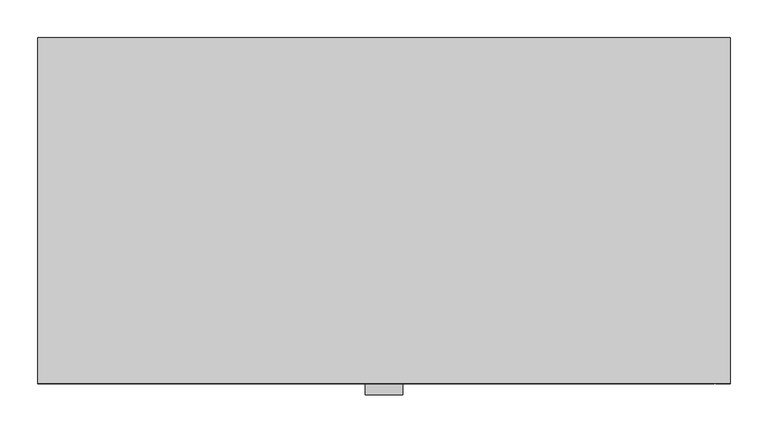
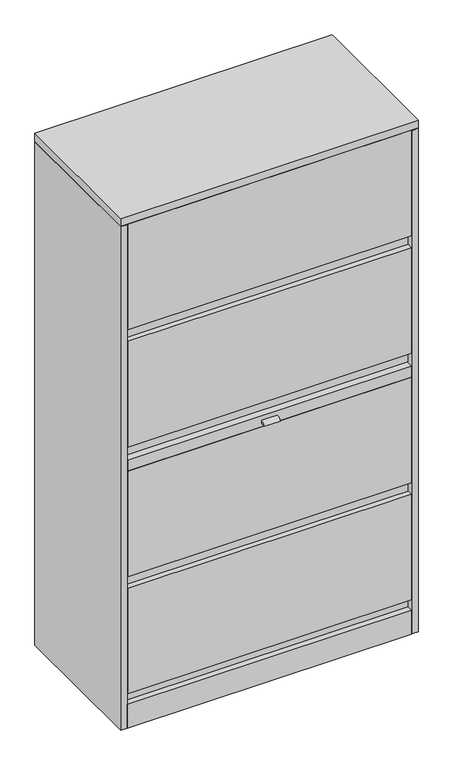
"""IFC4 building model written with IfcOpenShell, lengths in millimetres: furniture geometry, Steelcase - 900 Series - Storage - Lateral File With Posting Shelf - Flush Steel : Four 15H Lift Up Door - 36W."""

from ifc_helpers import new_model, si_unit, point, frame, frame_2d, origin, origin_with_axes, place, context, project, spatial, polyline, circle_curve, trimmed, segment, composite_curve, outline, extrude, faceted_brep, source, transform, mapped, element, save


def furniture_df55bf1d(model_context):
    return source(origin(), model_context, "Body", "SolidModel", [
        extrude(outline(composite_curve([segment(polyline([(-457.2, 845.7259941), (-459.1278436, 845.7259941)]), True, "CONTINUOUS"), segment(trimmed(circle_curve(frame_2d((-465.1546853, 839.5924947)), 8.5989904), [point((-459.1278436, 845.7259941))], [point((-471.181527, 845.7259941))], True, "CARTESIAN"), True, "CONTINUOUS"), segment(polyline([(-471.181527, 845.7259941), (-472.2456768, 845.7259941)]), True, "CONTINUOUS"), segment(trimmed(circle_curve(frame_2d((-456.0306814, 838.2093196)), 17.872506), [point((-472.2456768, 845.7259941))], [point((-457.2, 856.0435329))], False, "CARTESIAN"), True, "CONTINUOUS"), segment(polyline([(-457.2, 856.0435329), (-457.2, 845.7259941)]), True, "CONTINUOUS")], self_intersect=False)), frame((432.562, 0.0, 0.0), z_axis=(1.0, 0.0, 0.0), x_axis=(0.0, 1.0, 0.0)), (0.0, 0.0, 1.0), 49.276),
        extrude(outline(polyline([(-439.6742224, 1290.3962373), (-457.2, 1294.7658834), (-457.2, 1637.8935942), (-431.800255, 1637.8935942), (-431.800255, 1255.8522686), (-439.6742224, 1255.8522686), (-439.6742224, 1290.3962373)])), frame((20.8289612, 0.0, 0.0), z_axis=(1.0, 0.0, 0.0), x_axis=(0.0, 1.0, 0.0)), (0.0, 0.0, 1.0), 872.7432404),
        extrude(outline(polyline([(-439.6742224, 487.7562373), (-457.2, 492.1258834), (-457.2, 835.2535983), (-431.800255, 835.2535983), (-431.800255, 453.2121984), (-439.6742224, 453.2121984), (-439.6742224, 487.7562373)])), frame((20.8289612, 0.0, 0.0), z_axis=(1.0, 0.0, 0.0), x_axis=(0.0, 1.0, 0.0)), (0.0, 0.0, 1.0), 872.7432404),
        extrude(outline(polyline([(-439.6742224, 106.7562373), (-457.2, 111.1258834), (-457.2, 454.2536007), (-431.800255, 454.2536007), (-431.800255, 77.9779983), (-439.6742224, 77.9779983), (-439.6742224, 106.7562373)])), frame((20.8289612, 0.0, 0.0), z_axis=(1.0, 0.0, 0.0), x_axis=(0.0, 1.0, 0.0)), (0.0, 0.0, 1.0), 872.7432404),
        extrude(outline(polyline([(-439.6742224, 909.3962373), (-457.2, 913.7658834), (-457.2, 1256.8935983), (-431.800255, 1256.8935983), (-431.800255, 874.8521959), (-439.6742224, 874.8521959), (-439.6742224, 909.3962373)])), frame((20.8289612, 0.0, 0.0), z_axis=(1.0, 0.0, 0.0), x_axis=(0.0, 1.0, 0.0)), (0.0, 0.0, 1.0), 872.7432404),
        extrude(outline(polyline([(893.5722015, -457.2), (20.8289612, -457.2), (20.8289612, -431.800255), (893.5722015, -431.800255), (893.5722015, -457.2)])), frame((0.0, 0.0, 834.2122), z_axis=(0.0, 0.0, 1.0), x_axis=(1.0, 0.0, 0.0)), (0.0, 0.0, 1.0), 35.9156),
        extrude(outline(polyline([(-430.275847, 77.9779983), (-430.275847, 103.3780013), (-25.2721219, 103.3780013), (-25.2721219, 0.0), (-457.2, 0.0), (-457.2, 77.9779983), (-430.275847, 77.9779983)])), frame((19.3039998, 0.0, 0.0), z_axis=(1.0, 0.0, 0.0), x_axis=(0.0, 1.0, 0.0)), (0.0, 0.0, 1.0), 874.2682018),
        faceted_brep([(914.4, 0.0, 1663.7), (0.0, 0.0, 1663.7), (0.0, -457.2, 1663.7), (914.4, -457.2, 1663.7), (914.4, 0.0, 1638.2999516), (914.4, -457.2, 1638.2999516), (0.0, -457.2, 1638.2999516), (0.0, 0.0, 1638.2999516), (895.0960184, -25.2721219, 1638.2999516), (20.8289612, -25.2721219, 1638.2999516), (20.8289612, -415.9241219, 1638.2999516), (895.0960184, -415.9241219, 1638.2999516), (895.0960184, -25.2721219, 1636.776), (895.0960184, -415.9241219, 1636.776), (20.8289612, -415.9241219, 1636.776), (20.8289612, -25.2721219, 1636.776)], [[[0, 1, 2, 3]], [[4, 5, 6, 7], [8, 9, 10, 11]], [[1, 0, 4, 7]], [[2, 1, 7, 6]], [[3, 2, 6, 5]], [[0, 3, 5, 4]], [[12, 13, 14, 15]], [[12, 15, 9, 8]], [[15, 14, 10, 9]], [[14, 13, 11, 10]], [[13, 12, 8, 11]]]),
        extrude(outline(polyline([(895.0960184, -25.2721219), (19.3039998, -25.2721219), (19.3039998, -457.2), (0.0, -457.2), (0.0, 0.0), (914.4, 0.0), (914.4, -457.2), (895.0960184, -457.2), (895.0960184, -25.2721219)])), origin_with_axes(), (0.0, 0.0, 1.0), 1636.776),
    ])


if __name__ == "__main__":
    model = new_model("IFC4")
    model_context = context("Model", 3, world=origin())
    ifc_project = project(units=[si_unit("LENGTHUNIT", "METRE", prefix="MILLI")], contexts=[model_context])
    site = spatial("IfcSite", under=ifc_project)
    building = spatial("IfcBuilding", under=site)
    placement = place(None, origin())
    furniture_shape = furniture_df55bf1d(model_context)
    element("IfcFurniture", 1, ObjectType="Steelcase - 900 Series - Storage - Lateral File With Posting Shelf - Flush Steel : Four 15H Lift Up Door - 36W", at=placement, inside=building, context=model_context, shape_type="MappedRepresentation", body=[
        mapped(furniture_shape, transform((0.0, 0.0, 0.0), x_axis=(1.0, 0.0, 0.0), y_axis=(0.0, 1.0, 0.0), z_axis=(0.0, 0.0, 1.0))),
    ])
    save(model, "model.ifc")
